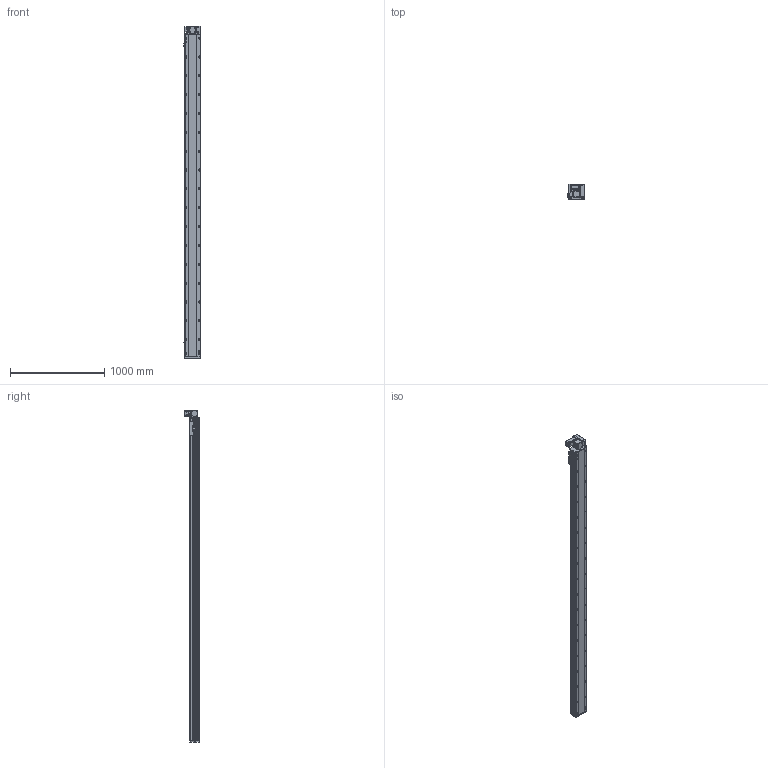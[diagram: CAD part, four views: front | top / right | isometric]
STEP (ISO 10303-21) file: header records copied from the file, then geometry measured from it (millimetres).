
FILE_DESCRIPTION (( 'STEP AP214' ), '1' );
FILE_NAME ('RTB17S-XX-3150-RW-M40-C4.STEP', '2025-12-11T09:17:58', ( '' ), ( '' ), 'SwSTEP 2.0', 'SolidWorks 2018', '' );
FILE_SCHEMA (( 'AUTOMOTIVE_DESIGN' ));
Length unit declared in the file: millimetre
Products named in the file (14): RTB14-L-017P^RTB17S-RW-々湍釱蚾饜-400W_RTB17S-XX-XX-RW-M40-C4; RMP17S-L-014-T20--々湍釱^RTB17S-RW-々湍釱蚾饜-400W_RTB17S-XX-XX-RW-M40-C4; RTB17S-XX-3150-RW-M40-C4; RTB17S-L-001耜醱啣^RTB17S-XX-XX-RW-M40-C4; RTB17S-L-004佪裝蹟譫蟀諉釱^RTB17S-XX-XX-RW-M40-C4; RTB14-L-005P--轴承塑胶压盖^RTB17S-RW-皮带座装配-400W_RTB17S-XX-XX-RW-M40-C4; 400W侜督萇儂^RTB17S-XX-XX-RW-M40-C4; RTB17S-L-007奻裔^RTB17S-XX-XX-RW-M40-C4; RTB17-R-011菁釱^RTB17S-XX-XX-RW-M40-C4; RTB17S-RW-々湍釱蚾饜-400W^RTB17S-XX-XX-RW-M40-C4; RTB14-L-008-M20--萇儂啣^RTB17S-RW-々湍釱蚾饜-400W_RTB17S-XX-XX-RW-M40-C4; RTH13-BL-012覜茼え俋离^RTB17S-XX-XX-RW-M40-C4; RTB14-L-018P^RTB17S-RW-々湍釱蚾饜-400W_RTB17S-XX-XX-RW-M40-C4; OMRON EE-SX672 传感器^RTB17S-XX-XX-RW-M40-C4
Assembly tree (16 placements, depth 3):
  RTB17S-XX-3150-RW-M40-C4
    RTB17-R-011菁釱^RTB17S-XX-XX-RW-M40-C4
    RTB17S-L-007奻裔^RTB17S-XX-XX-RW-M40-C4
    OMRON EE-SX672 传感器^RTB17S-XX-XX-RW-M40-C4  x3
    RTB17S-L-001耜醱啣^RTB17S-XX-XX-RW-M40-C4
    400W侜督萇儂^RTB17S-XX-XX-RW-M40-C4
    RTB17S-L-004佪裝蹟譫蟀諉釱^RTB17S-XX-XX-RW-M40-C4
    RTH13-BL-012覜茼え俋离^RTB17S-XX-XX-RW-M40-C4
    RTB17S-RW-々湍釱蚾饜-400W^RTB17S-XX-XX-RW-M40-C4
      RMP17S-L-014-T20--々湍釱^RTB17S-RW-々湍釱蚾饜-400W_RTB17S-XX-XX-RW-M40-C4
      RTB14-L-005P--轴承塑胶压盖^RTB17S-RW-皮带座装配-400W_RTB17S-XX-XX-RW-M40-C4
      RTB14-L-008-M20--萇儂啣^RTB17S-RW-々湍釱蚾饜-400W_RTB17S-XX-XX-RW-M40-C4
      RTB14-L-017P^RTB17S-RW-々湍釱蚾饜-400W_RTB17S-XX-XX-RW-M40-C4  x2
      RTB14-L-018P^RTB17S-RW-々湍釱蚾饜-400W_RTB17S-XX-XX-RW-M40-C4
Bounding box: 183.5 x 160.5 x 3522.5 mm (x, y, z)
Volume: 29907410.5 mm3; surface area: 3410041.3 mm2
Topology: 15 solids, 15 shells, 2381 faces, 6681 edges, 4365 vertices
Faces by surface type: plane 1090, cylinder 843, bspline 301, cone 139, torus 8
Entity records: 71081 total; most frequent: CARTESIAN_POINT 20286, ORIENTED_EDGE 10206, DIRECTION 9386, EDGE_CURVE 5103, VERTEX_POINT 3353, AXIS2_PLACEMENT_3D 3283, VECTOR 2820, LINE 2820
